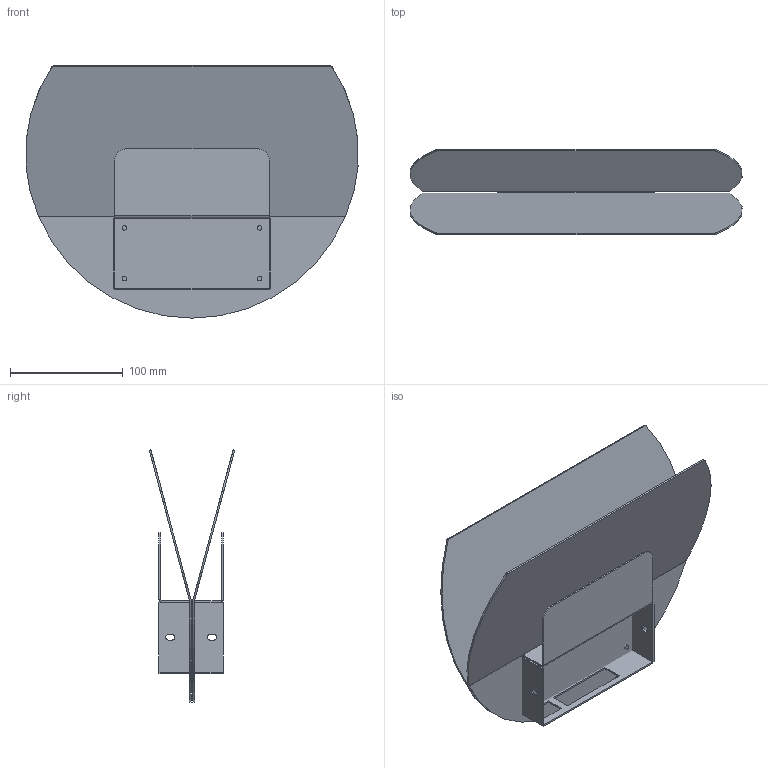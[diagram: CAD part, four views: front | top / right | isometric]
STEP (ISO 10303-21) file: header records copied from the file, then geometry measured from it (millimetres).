
FILE_DESCRIPTION( ( 'STEP AP203' ), '1' );
FILE_NAME( '//srvbf/BF Disegni/MARINELLI FABIO/SLEEP/SLEEP-A Applique 3D.stp', '2020-10-15T15:51:24', ( ' ' ), ( ' ' ), 'XStep 1.0', ' ', ' ' );
FILE_SCHEMA( ( 'CONFIG_CONTROL_DESIGN) ( )' ) );
Length unit declared in the file: metre
Products named in the file (3): Assem1; 1; 2
Bounding box: 294.18 x 75.77 x 223.54 mm (x, y, z)
Volume: 250048.2 mm3; surface area: 339169 mm2
Topology: 4 solids, 4 shells, 172 faces, 400 edges, 244 vertices
Faces by surface type: plane 90, cylinder 62, bspline 20
Full cylindrical faces by diameter (mm): 4 x8, 5 x8
Entity records: 2954 total; most frequent: CARTESIAN_POINT 945, ORIENTED_EDGE 372, DIRECTION 366, EDGE_CURVE 186, LINE 124, VECTOR 124, AXIS2_PLACEMENT_3D 121, VERTEX_POINT 116
